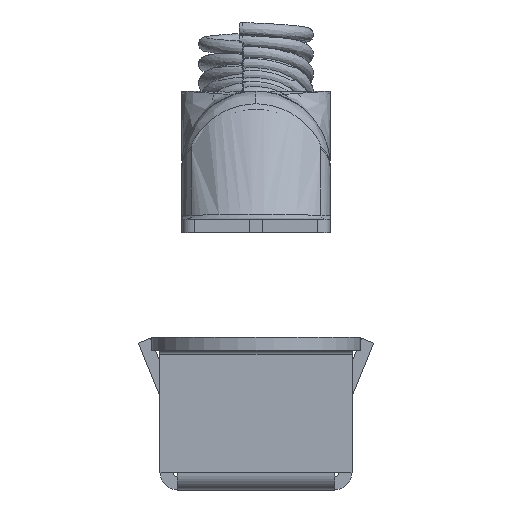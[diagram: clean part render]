
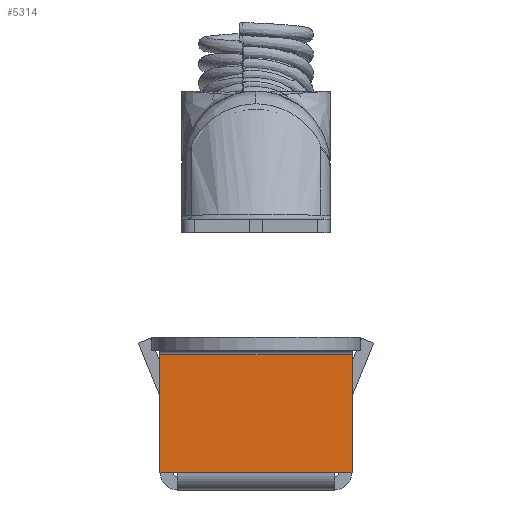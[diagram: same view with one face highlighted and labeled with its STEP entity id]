
A CAD part, left-side view. The second image highlights one B-rep face of the part: STEP entity #5314.
In plain terms, the highlighted planar face has unit normal (-1, 0, 0).
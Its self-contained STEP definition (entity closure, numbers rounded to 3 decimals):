
#564=PLANE($,#5672);
#710=FACE_OUTER_BOUND($,#998,.T.);
#998=EDGE_LOOP($,(#3654,#3655,#3656,#3657,#3658,#3659));
#1309=LINE($,#7202,#1591);
#1362=LINE($,#7348,#1644);
#1364=LINE($,#7356,#1646);
#1376=LINE($,#7385,#1658);
#1382=LINE($,#7399,#1664);
#1390=LINE($,#7419,#1672);
#1591=VECTOR($,#6143,13.5);
#1644=VECTOR($,#6282,2.);
#1646=VECTOR($,#6294,18.);
#1658=VECTOR($,#6328,2.);
#1664=VECTOR($,#6344,13.5);
#1672=VECTOR($,#6372,22.);
#2062=VERTEX_POINT($,#7199);
#2063=VERTEX_POINT($,#7201);
#2111=VERTEX_POINT($,#7342);
#2113=VERTEX_POINT($,#7346);
#2114=VERTEX_POINT($,#7354);
#2123=VERTEX_POINT($,#7398);
#2591=EDGE_CURVE($,#2062,#2063,#1309,.T.);
#2663=EDGE_CURVE($,#2111,#2113,#1362,.T.);
#2668=EDGE_CURVE($,#2113,#2114,#1364,.T.);
#2684=EDGE_CURVE($,#2114,#2063,#1376,.T.);
#2692=EDGE_CURVE($,#2111,#2123,#1382,.T.);
#2703=EDGE_CURVE($,#2062,#2123,#1390,.T.);
#3654=ORIENTED_EDGE($,*,*,#2703,.T.);
#3655=ORIENTED_EDGE($,*,*,#2692,.F.);
#3656=ORIENTED_EDGE($,*,*,#2663,.T.);
#3657=ORIENTED_EDGE($,*,*,#2668,.T.);
#3658=ORIENTED_EDGE($,*,*,#2684,.T.);
#3659=ORIENTED_EDGE($,*,*,#2591,.F.);
#5314=ADVANCED_FACE($,(#710),#564,.F.);
#5672=AXIS2_PLACEMENT_3D($,#7423,#6379,#6380);
#6143=DIRECTION($,(0.,0.,-1.));
#6282=DIRECTION($,(0.,-1.,0.));
#6294=DIRECTION($,(0.,-1.,0.));
#6328=DIRECTION($,(0.,-1.,0.));
#6344=DIRECTION($,(0.,0.,1.));
#6372=DIRECTION($,(0.,1.,0.));
#6379=DIRECTION('center_axis',(1.,0.,0.));
#6380=DIRECTION('ref_axis',(0.,0.,-1.));
#7199=CARTESIAN_POINT('',(-169.,-11.,15.5));
#7201=CARTESIAN_POINT('',(-169.,-11.,2.));
#7202=CARTESIAN_POINT($,(-169.,-11.,-1.644));
#7342=CARTESIAN_POINT('',(-169.,11.,2.));
#7346=CARTESIAN_POINT('',(-169.,9.,2.));
#7348=CARTESIAN_POINT($,(-169.,0.,2.));
#7354=CARTESIAN_POINT('',(-169.,-9.,2.));
#7356=CARTESIAN_POINT($,(-169.,0.,2.));
#7385=CARTESIAN_POINT($,(-169.,0.,2.));
#7398=CARTESIAN_POINT('',(-169.,11.,15.5));
#7399=CARTESIAN_POINT($,(-169.,11.,2.));
#7419=CARTESIAN_POINT($,(-169.,5.5,15.5));
#7423=CARTESIAN_POINT('Origin',(-169.,0.,8.839));
